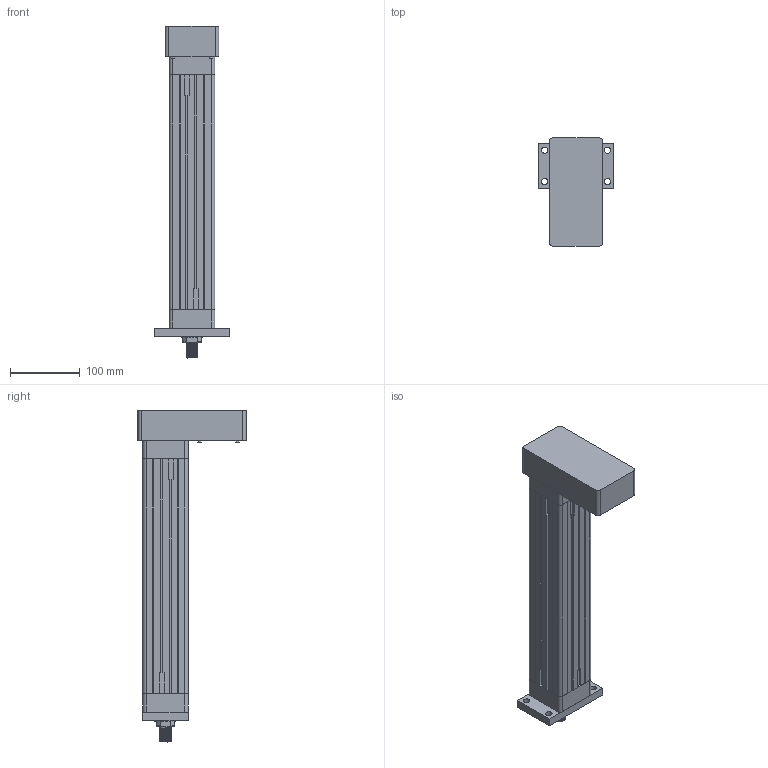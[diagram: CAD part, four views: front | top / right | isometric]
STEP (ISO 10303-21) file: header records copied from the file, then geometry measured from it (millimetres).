
FILE_DESCRIPTION( ('This file contains a STEP AP42 implementation' ,'as created by ZW3D STEP Interface translator.') ,'2;1' );
FILE_NAME( '4AAFDF1F-36BB-CF33-46BF-63E047EDCF69.stp' ,'17 5 6.145821', (''), ('ZWCAD Software Co.'), 'Version 1.0', 'ZW3D to STEP translator', '' );
FILE_SCHEMA( ('CONFIG_CONTROL_DESIGN') );
Length unit declared in the file: millimetre
Products named in the file (5): 0; TEB-50-D-F; TED-50-D-F; F-50; TEB50菁釱
Assembly tree (3 placements, depth 3):
  0
  TEB-50-D-F
    TED-50-D-F
      F-50
    TEB50菁釱
Bounding box: 108 x 155 x 475.5 mm (x, y, z)
Volume: 2161707.7 mm3; surface area: 266529.3 mm2
Topology: 21 solids, 21 shells, 392 faces, 929 edges, 615 vertices
Faces by surface type: bspline 392
Entity records: 14021 total; most frequent: CARTESIAN_POINT 7775, ORIENTED_EDGE 1850, EDGE_CURVE 925, B_SPLINE_CURVE_WITH_KNOTS 698, VERTEX_POINT 615, EDGE_LOOP 474, FACE_OUTER_BOUND 392, ADVANCED_FACE 392
